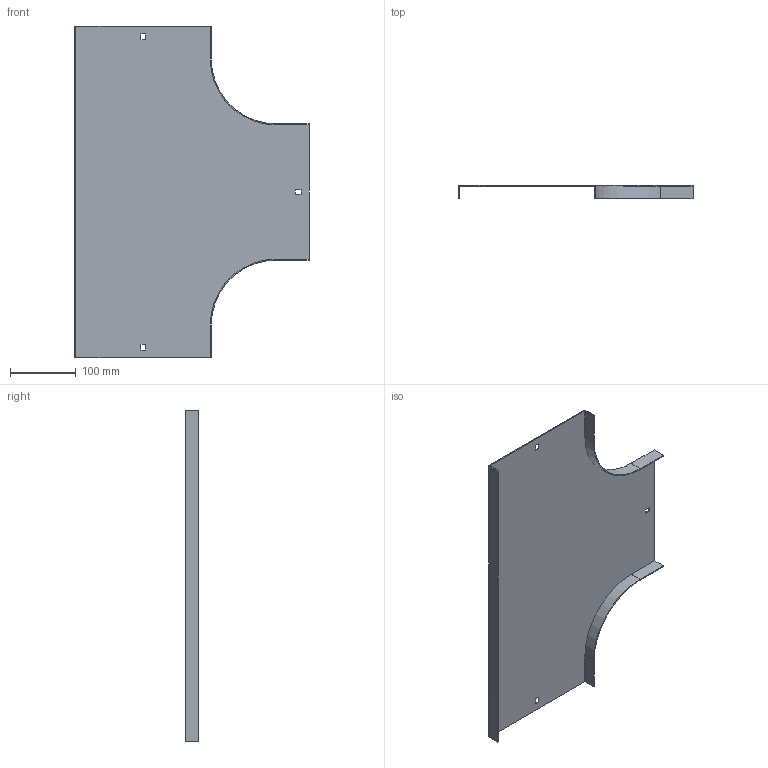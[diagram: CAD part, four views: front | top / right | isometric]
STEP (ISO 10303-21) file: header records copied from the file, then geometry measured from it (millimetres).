
FILE_DESCRIPTION (( 'STEP AP214' ), '1' );
FILE_NAME ('15N1R200.step', '2025-02-21T09:52:05', ( '' ), ( '' ), 'SwSTEP 2.0', 'SolidWorks 2023', '' );
FILE_SCHEMA (( 'AUTOMOTIVE_DESIGN' ));
Length unit declared in the file: millimetre
Products named in the file (1): 15N1R200
Bounding box: 355.5 x 20 x 504 mm (x, y, z)
Volume: 236772.9 mm3; surface area: 318454.9 mm2
Topology: 1 solids, 1 shells, 34 faces, 96 edges, 64 vertices
Faces by surface type: plane 30, cylinder 4
Entity records: 1123 total; most frequent: CARTESIAN_POINT 195, ORIENTED_EDGE 192, DIRECTION 174, EDGE_CURVE 96, VECTOR 88, LINE 88, VERTEX_POINT 64, AXIS2_PLACEMENT_3D 43
